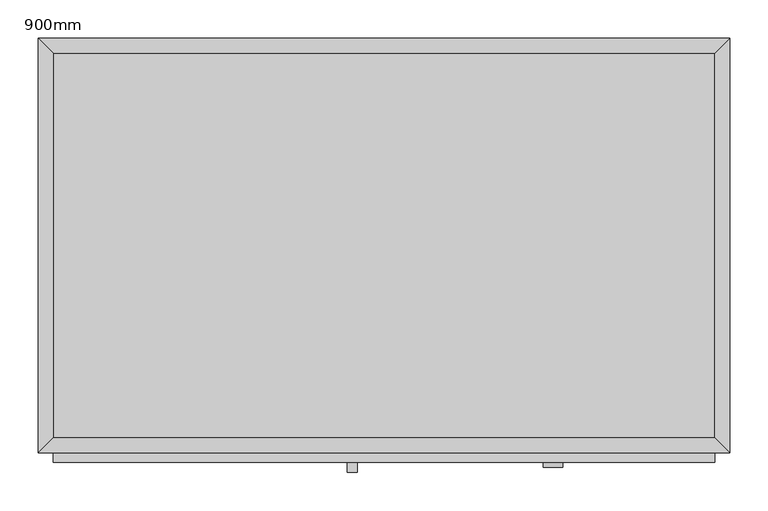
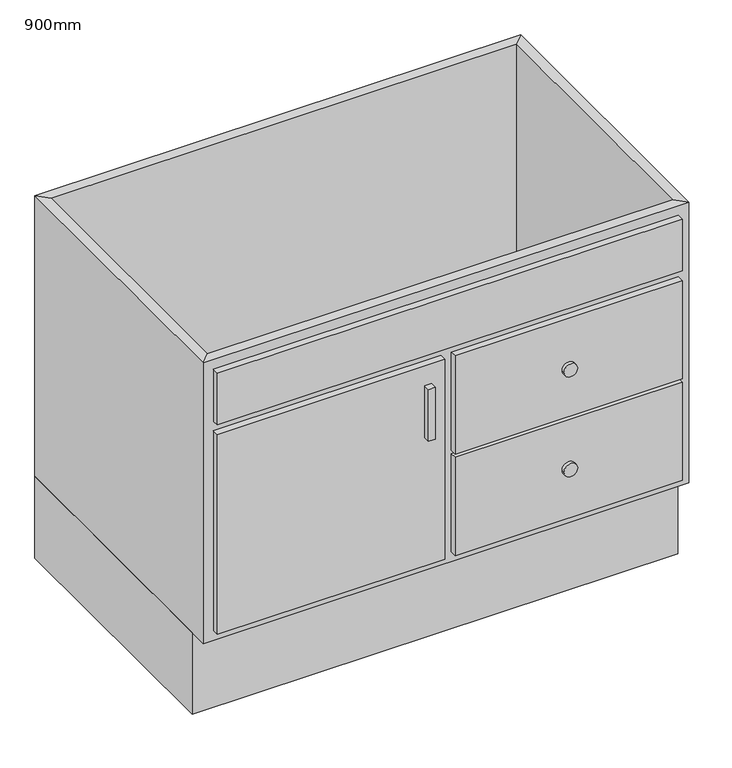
"""IFC4 building model written with IfcOpenShell, lengths in millimetres: furniture geometry, Meuble sous lavabo - Porte simple et 2 tiroirs : 900mm."""

import ifcopenshell
import ifcopenshell.guid

model = None  # the IFC model being written
_history = None  # IfcOwnerHistory: only IFC2X3 demands one
_inside = {}  # id of a spatial element -> (the spatial element, [elements in it])
_under = {}  # id of a project, library or spatial element -> (it, [spatial elements below it])
_declared = {}  # id of a project -> (the project, [libraries it declares])
_typed = {}  # id of a type object -> (the type object, [elements of that type])
_made_of = {}  # id of a material, layer set ... -> (it, [elements and type objects made of it])


def new_model(schema):
    """Start an empty IFC model of exactly this schema.

    Asked for "IFC4X3", IfcOpenShell would pick the latest addendum, in which some entities
    have other attributes; the version numbers below select the first issue.
    IFC2X3 requires an IfcOwnerHistory on every rooted entity: one is made here for all.
    """
    global model, _history
    if schema == "IFC4X3":
        model = ifcopenshell.file(schema_version=(4, 3, 0, 0))
    else:
        model = ifcopenshell.file(schema=schema)
    _inside.clear()
    _under.clear()
    _declared.clear()
    _typed.clear()
    _made_of.clear()
    _history = None
    if model.schema == "IFC2X3":
        org = make("IfcOrganization", Name="unknown")
        user = make(
            "IfcPersonAndOrganization",
            ThePerson=make("IfcPerson", FamilyName="unknown"),
            TheOrganization=org,
        )
        app = make(
            "IfcApplication",
            ApplicationDeveloper=org,
            Version="unknown",
            ApplicationFullName="unknown",
            ApplicationIdentifier="unknown",
        )
        _history = make(
            "IfcOwnerHistory",
            OwningUser=user,
            OwningApplication=app,
            ChangeAction="ADDED",
            CreationDate=0,
        )
    return model


def make(cls, **values):
    """One entity of the class cls with the attributes given. An attribute that is None is left unset."""
    return model.create_entity(
        cls, **{name: value for name, value in values.items() if value is not None}
    )


def rooted(cls, **values):
    """An entity with a GlobalId (a new one), such as an element, a storey or a relation."""
    return make(cls, GlobalId=ifcopenshell.guid.new(), OwnerHistory=_history, **values)


def si_unit(unit_type, name, prefix=None):
    """IfcSIUnit, for example si_unit("LENGTHUNIT", "METRE", prefix="MILLI")."""
    return make("IfcSIUnit", UnitType=unit_type, Prefix=prefix, Name=name)


def assignment(units):
    """IfcUnitAssignment: the units of a project."""
    return None if units is None else make("IfcUnitAssignment", Units=units)


def point(xyz):
    """IfcCartesianPoint."""
    return None if xyz is None else make("IfcCartesianPoint", Coordinates=xyz)


def direction(xyz):
    """IfcDirection."""
    return None if xyz is None else make("IfcDirection", DirectionRatios=xyz)


def frame(location, z_axis=None, x_axis=None):
    """IfcAxis2Placement3D, a coordinate frame: its origin and axes. An axis left out is left unset."""
    return make(
        "IfcAxis2Placement3D",
        Location=point(location),
        Axis=direction(z_axis),
        RefDirection=direction(x_axis),
    )


def frame_2d(location, x_axis=None):
    """IfcAxis2Placement2D, a coordinate frame in the plane: its origin and x axis."""
    return make(
        "IfcAxis2Placement2D", Location=point(location), RefDirection=direction(x_axis)
    )


def origin():
    """The frame at (0, 0, 0) with its axes left unset."""
    return frame((0.0, 0.0, 0.0))


def origin_with_axes():
    """The frame at (0, 0, 0) with the z axis (0, 0, 1) and the x axis (1, 0, 0) written out."""
    return frame((0.0, 0.0, 0.0), z_axis=(0.0, 0.0, 1.0), x_axis=(1.0, 0.0, 0.0))


def place(relative_to, where):
    """IfcLocalPlacement: puts the frame where relative to a parent placement (None: the world)."""
    return make(
        "IfcLocalPlacement", PlacementRelTo=relative_to, RelativePlacement=where
    )


def context(
    kind, dimensions, precision=None, world=None, true_north=None, identifier=None
):
    """IfcGeometricRepresentationContext, for example the 3D "Model" context."""
    return make(
        "IfcGeometricRepresentationContext",
        ContextIdentifier=identifier,
        ContextType=kind,
        CoordinateSpaceDimension=dimensions,
        Precision=precision,
        WorldCoordinateSystem=world,
        TrueNorth=true_north,
    )


def project(units=None, contexts=None):
    """IfcProject with its units and contexts."""
    return rooted(
        "IfcProject",
        Name="project",
        RepresentationContexts=contexts,
        UnitsInContext=assignment(units),
    )


def spatial(cls, under=None, at=None, **own):
    """A site, building, storey or space (cls), placed at a placement, below another one or the project."""
    s = rooted(cls, ObjectPlacement=at, **own)
    if under is not None:
        _under.setdefault(under.id(), (under, []))[1].append(s)
    return s


def polyline(points):
    """IfcPolyline through the points."""
    return make("IfcPolyline", Points=[point(p) for p in points])


def circle_curve(where, radius):
    """IfcCircle in the frame where."""
    return make("IfcCircle", Position=where, Radius=radius)


def trimmed(basis, trim1, trim2, sense, master):
    """IfcTrimmedCurve: the piece of a basis curve between two trims."""
    return make(
        "IfcTrimmedCurve",
        BasisCurve=basis,
        Trim1=trim1,
        Trim2=trim2,
        SenseAgreement=sense,
        MasterRepresentation=master,
    )


def segment(curve, same_sense, transition):
    """IfcCompositeCurveSegment."""
    return make(
        "IfcCompositeCurveSegment",
        Transition=transition,
        SameSense=same_sense,
        ParentCurve=curve,
    )


def composite_curve(segments, self_intersect=None):
    """IfcCompositeCurve: segments joined end to end."""
    return make("IfcCompositeCurve", Segments=segments, SelfIntersect=self_intersect)


def outline(outer, holes=None, kind="AREA"):
    """IfcArbitraryClosedProfileDef: a profile drawn as a closed curve; with holes, ...WithVoids."""
    if holes is None:
        return make("IfcArbitraryClosedProfileDef", ProfileType=kind, OuterCurve=outer)
    return make(
        "IfcArbitraryProfileDefWithVoids",
        ProfileType=kind,
        OuterCurve=outer,
        InnerCurves=holes,
    )


def extrude(swept, where, along, depth):
    """IfcExtrudedAreaSolid: the profile swept, set in the frame where, extruded along a direction by depth."""
    return make(
        "IfcExtrudedAreaSolid",
        SweptArea=swept,
        Position=where,
        ExtrudedDirection=direction(along),
        Depth=depth,
    )


def faces_of(points, faces, orient=None, outer=None):
    """IfcFace entities. A face is a list of loops; a loop is a list of indices into points, from 0.

    orient and outer hold one flag for each loop. By default every Orientation is true, the
    first loop of a face is its IfcFaceOuterBound and the others are IfcFaceBound.
    """
    made = []
    for i, loops in enumerate(faces):
        bounds = []
        for j, loop in enumerate(loops):
            is_outer = j == 0 if outer is None else outer[i][j]
            bounds.append(
                make(
                    "IfcFaceOuterBound" if is_outer else "IfcFaceBound",
                    Bound=make("IfcPolyLoop", Polygon=[points[k] for k in loop]),
                    Orientation=True if orient is None else orient[i][j],
                )
            )
        made.append(make("IfcFace", Bounds=bounds))
    return made


def faceted_brep(points, faces, orient=None, outer=None, voids=None):
    """IfcFacetedBrep: a solid bounded by flat faces; with voids (closed shells), ...WithVoids."""
    shared = [point(p) for p in points]
    hull = make("IfcClosedShell", CfsFaces=faces_of(shared, faces, orient, outer))
    if voids is None:
        return make("IfcFacetedBrep", Outer=hull)
    return make(
        "IfcFacetedBrepWithVoids",
        Outer=hull,
        Voids=[
            make(cls, CfsFaces=faces_of(shared, fs, o, b)) for cls, fs, o, b in voids
        ],
    )


def shape(context_of_items, identifier, shape_type, items):
    """IfcShapeRepresentation: the items that make up one representation, for example the "Body"."""
    return make(
        "IfcShapeRepresentation",
        ContextOfItems=context_of_items,
        RepresentationIdentifier=identifier,
        RepresentationType=shape_type,
        Items=items,
    )


def source(mapping_origin, context_of_items, identifier, shape_type, items):
    """IfcRepresentationMap: a shape defined once, which mapped items show again and again."""
    return make(
        "IfcRepresentationMap",
        MappingOrigin=mapping_origin,
        MappedRepresentation=shape(context_of_items, identifier, shape_type, items),
    )


def transform(
    local_origin,
    x_axis=None,
    y_axis=None,
    z_axis=None,
    scale=None,
    scale2=None,
    scale3=None,
    uniform=True,
):
    """IfcCartesianTransformationOperator3D, or its non-uniform kind. x_axis, y_axis, z_axis: its Axis1, 2, 3."""
    if uniform:
        return make(
            "IfcCartesianTransformationOperator3D",
            Axis1=direction(x_axis),
            Axis2=direction(y_axis),
            LocalOrigin=point(local_origin),
            Scale=scale,
            Axis3=direction(z_axis),
        )
    return make(
        "IfcCartesianTransformationOperator3DnonUniform",
        Axis1=direction(x_axis),
        Axis2=direction(y_axis),
        LocalOrigin=point(local_origin),
        Scale=scale,
        Axis3=direction(z_axis),
        Scale2=scale2,
        Scale3=scale3,
    )


def mapped(mapping_source, mapping_target):
    """IfcMappedItem: shows the shape of a source again, moved by a transform."""
    return make(
        "IfcMappedItem", MappingSource=mapping_source, MappingTarget=mapping_target
    )


def made_of(thing, what):
    """Note that an element or type object is made of a material, layer set ...; save() writes the relation."""
    if what is not None:
        _made_of.setdefault(what.id(), (what, []))[1].append(thing)
    return thing


def element(
    cls,
    number,
    at=None,
    inside=None,
    cuts=None,
    type_object=None,
    material=None,
    context=None,
    identifier="Body",
    shape_type=None,
    held_by="IfcProductDefinitionShape",
    body=None,
    shapes=None,
    **own,
):
    """One element of the class cls, such as IfcWall. Its Tag is "e" and its number.

    at: its placement. inside: the storey or other place that contains it. cuts: it is an
    opening in that element (IfcRelVoidsElement). A single representation is given by context,
    identifier, shape_type and body (its items); several are given by shapes. held_by: the class
    of the entity that holds the representations. save() writes the other relations.
    """
    e = rooted(cls, Tag="e%d" % number, ObjectPlacement=at, **own)
    if body is not None:
        shapes = [shape(context, identifier, shape_type, body)]
    if shapes is not None:
        e.Representation = make(held_by, Representations=shapes)
    if inside is not None:
        _inside.setdefault(inside.id(), (inside, []))[1].append(e)
    if cuts is not None:
        rooted(
            "IfcRelVoidsElement", RelatingBuildingElement=cuts, RelatedOpeningElement=e
        )
    if type_object is not None:
        _typed.setdefault(type_object.id(), (type_object, []))[1].append(e)
    return made_of(e, material)


def aggregate(whole, parts):
    """IfcRelAggregates: a whole, such as a stair, and the parts it consists of."""
    return rooted("IfcRelAggregates", RelatingObject=whole, RelatedObjects=parts)


def save(model, path):
    """Write the relations noted so far, then the file.

    IfcRelAggregates (storeys below a building ...), IfcRelContainedInSpatialStructure (elements
    in a storey), IfcRelDefinesByType, IfcRelAssociatesMaterial and IfcRelDeclares: one each for
    every whole, place, type object, material and project.
    """
    for whole, parts in _under.values():
        aggregate(whole, parts)
    for where, things in _inside.values():
        rooted(
            "IfcRelContainedInSpatialStructure",
            RelatedElements=things,
            RelatingStructure=where,
        )
    for kind, things in _typed.values():
        rooted("IfcRelDefinesByType", RelatedObjects=things, RelatingType=kind)
    for what, things in _made_of.values():
        rooted("IfcRelAssociatesMaterial", RelatedObjects=things, RelatingMaterial=what)
    for by, libraries in _declared.values():
        rooted("IfcRelDeclares", RelatingContext=by, RelatedDefinitions=libraries)
    model.write(path)


def furniture_900mm_0b803dc7(model_context):
    return source(origin(), model_context, "Body", "SolidModel", [
        extrude(outline(polyline([(544.9377049, 0.0), (544.9377049, -505.0), (-355.0622951, -505.0), (-355.0622951, 0.0), (544.9377049, 0.0)])), origin_with_axes(), (0.0, 0.0, 1.0), 160.0),
        extrude(outline(composite_curve([segment(trimmed(circle_curve(frame_2d((472.4875, 315.1752049)), 12.7), [point((472.4875, 302.4752049))], [point((472.4875, 327.8752049))], False, "CARTESIAN"), True, "CONTINUOUS"), segment(trimmed(circle_curve(frame_2d((472.4875, 315.1752049)), 12.7), [point((472.4875, 327.8752049))], [point((472.4875, 302.4752049))], False, "CARTESIAN"), True, "CONTINUOUS")], self_intersect=False)), frame((0.0, -559.05, 0.0), z_axis=(0.0, 1.0, 0.0), x_axis=(0.0, 0.0, 1.0)), (0.0, 0.0, 1.0), 6.35),
        extrude(outline(composite_curve([segment(trimmed(circle_curve(frame_2d((276.8625, 315.1752049)), 12.7), [point((276.8625, 302.4752049))], [point((276.8625, 327.8752049))], False, "CARTESIAN"), True, "CONTINUOUS"), segment(trimmed(circle_curve(frame_2d((276.8625, 315.1752049)), 12.7), [point((276.8625, 327.8752049))], [point((276.8625, 302.4752049))], False, "CARTESIAN"), True, "CONTINUOUS")], self_intersect=False)), frame((0.0, -559.05, 0.0), z_axis=(0.0, 1.0, 0.0), x_axis=(0.0, 0.0, 1.0)), (0.0, 0.0, 1.0), 6.35),
        extrude(outline(polyline([(525.8877049, -552.7), (-336.0122951, -552.7), (-336.0122951, -540.0), (525.8877049, -540.0), (525.8877049, -552.7)])), frame((0.0, 0.0, 589.35), z_axis=(0.0, 0.0, 1.0), x_axis=(1.0, 0.0, 0.0)), (0.0, 0.0, 1.0), 101.6),
        extrude(outline(polyline([(85.4127049, -552.7), (-336.0122951, -552.7), (-336.0122951, -540.0), (85.4127049, -540.0), (85.4127049, -552.7)])), frame((0.0, 0.0, 179.05), z_axis=(0.0, 0.0, 1.0), x_axis=(1.0, 0.0, 0.0)), (0.0, 0.0, 1.0), 391.25),
        extrude(outline(polyline([(525.8877049, -552.7), (104.4627049, -552.7), (104.4627049, -540.0), (525.8877049, -540.0), (525.8877049, -552.7)])), frame((0.0, 0.0, 377.85), z_axis=(0.0, 0.0, 1.0), x_axis=(1.0, 0.0, 0.0)), (0.0, 0.0, 1.0), 192.45),
        extrude(outline(polyline([(525.8877049, -552.7), (104.4627049, -552.7), (104.4627049, -540.0), (525.8877049, -540.0), (525.8877049, -552.7)])), frame((0.0, 0.0, 179.05), z_axis=(0.0, 0.0, 1.0), x_axis=(1.0, 0.0, 0.0)), (0.0, 0.0, 1.0), 192.45),
        extrude(outline(polyline([(60.0127049, -565.4), (47.3127049, -565.4), (47.3127049, -552.7), (60.0127049, -552.7), (60.0127049, -565.4)])), frame((0.0, 0.0, 430.6), z_axis=(0.0, 0.0, 1.0), x_axis=(1.0, 0.0, 0.0)), (0.0, 0.0, 1.0), 101.6),
        faceted_brep([(525.8877049, -520.95, 710.0), (525.8877049, -520.95, 160.0), (-336.0122951, -520.95, 160.0), (-336.0122951, -520.95, 710.0), (544.9377049, -540.0, 710.0), (-355.0622951, -540.0, 710.0), (544.9377049, -540.0, 160.0), (-355.0622951, -540.0, 160.0), (-336.0122951, -19.05, 160.0), (-336.0122951, -19.05, 710.0), (-355.0622951, 0.0, 710.0), (-355.0622951, 0.0, 160.0), (525.8877049, -19.05, 160.0), (525.8877049, -19.05, 710.0), (544.9377049, 0.0, 710.0), (544.9377049, 0.0, 160.0)], [[[0, 1, 2, 3]], [[4, 0, 3, 5]], [[6, 4, 5, 7]], [[1, 6, 7, 2]], [[3, 2, 8, 9]], [[5, 3, 9, 10]], [[7, 5, 10, 11]], [[2, 7, 11, 8]], [[9, 8, 12, 13]], [[10, 9, 13, 14]], [[11, 10, 14, 15]], [[8, 11, 15, 12]], [[13, 12, 1, 0]], [[14, 13, 0, 4]], [[15, 14, 4, 6]], [[12, 15, 6, 1]]]),
        extrude(outline(polyline([(525.8877049, -19.05), (525.8877049, -520.95), (-336.0122951, -520.95), (-336.0122951, -19.05), (525.8877049, -19.05)])), frame((0.0, 0.0, 160.0), z_axis=(0.0, 0.0, 1.0), x_axis=(1.0, 0.0, 0.0)), (0.0, 0.0, 1.0), 19.05),
    ])


if __name__ == "__main__":
    model = new_model("IFC4")
    model_context = context("Model", 3, world=origin())
    ifc_project = project(units=[si_unit("LENGTHUNIT", "METRE", prefix="MILLI")], contexts=[model_context])
    site = spatial("IfcSite", under=ifc_project)
    building = spatial("IfcBuilding", under=site)
    placement = place(None, origin())
    furniture_900mm_shape = furniture_900mm_0b803dc7(model_context)
    element("IfcFurniture", 1, ObjectType="Meuble sous lavabo - Porte simple et 2 tiroirs : 900mm", at=placement, inside=building, context=model_context, shape_type="MappedRepresentation", body=[
        mapped(furniture_900mm_shape, transform((0.0, 0.0, 0.0), x_axis=(1.0, 0.0, 0.0), y_axis=(0.0, 1.0, 0.0), z_axis=(0.0, 0.0, 1.0))),
    ])
    save(model, "model.ifc")
